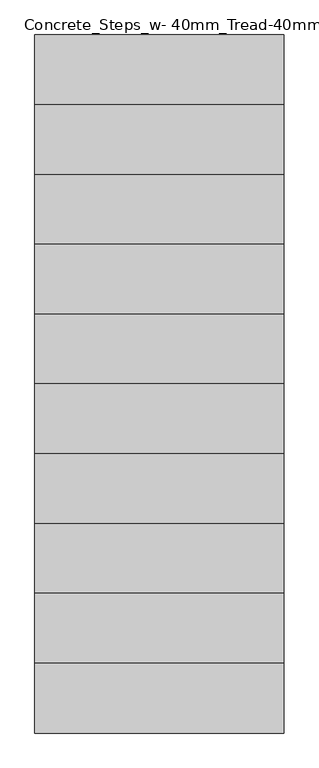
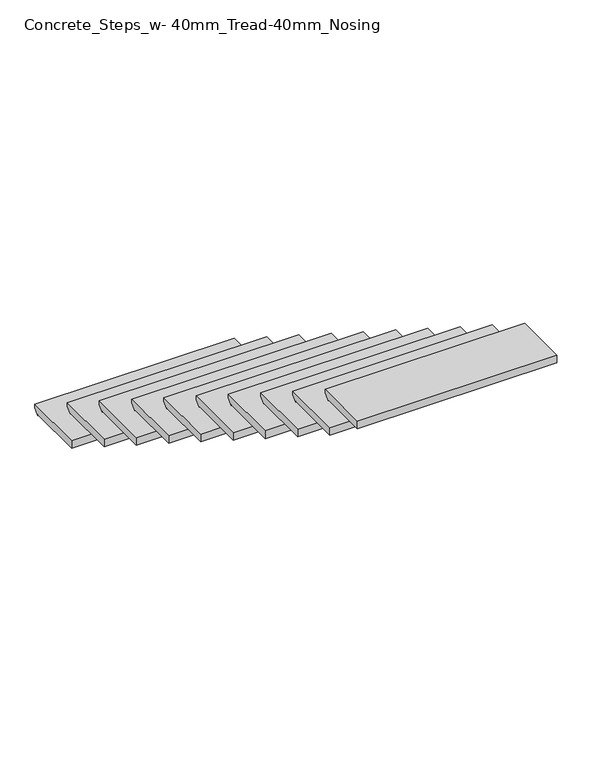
"""IFC4 building model written with IfcOpenShell, lengths in millimetres: stair flight geometry, Concrete_Steps_w- 40mm_Tread-40mm_Nosing."""

from ifc_helpers import new_model, si_unit, frame, origin, place, context, project, spatial, polyline, outline, extrude, source, transform, mapped, element, save


def concrete_steps_w_40mm_tread_40mm_nosing_491d132e(model_context):
    return source(origin(), model_context, "Body", "SweptSolid", [
        extrude(outline(polyline([(994.9946591, 2142.8571429), (1314.9946591, 2142.8571429), (1314.9946591, 2123.8071429), (1289.5946591, 2098.4071429), (1289.5946591, 2102.8571429), (994.9946591, 2102.8571429), (994.9946591, 2142.8571429)])), frame((-5849.2057633, 0.0, 0.0), z_axis=(1.0, 0.0, 0.0), x_axis=(0.0, 1.0, 0.0)), (0.0, 0.0, 1.0), 1000.0),
        extrude(outline(polyline([(714.9946591, 2321.4285714), (1034.9946591, 2321.4285714), (1034.9946591, 2302.3785714), (1009.5946591, 2276.9785714), (1009.5946591, 2281.4285714), (714.9946591, 2281.4285714), (714.9946591, 2321.4285714)])), frame((-5849.2057633, 0.0, 0.0), z_axis=(1.0, 0.0, 0.0), x_axis=(0.0, 1.0, 0.0)), (0.0, 0.0, 1.0), 1000.0),
        extrude(outline(polyline([(434.9946591, 2500.0), (754.9946591, 2500.0), (754.9946591, 2480.95), (729.5946591, 2455.55), (729.5946591, 2460.0), (434.9946591, 2460.0), (434.9946591, 2500.0)])), frame((-5849.2057633, 0.0, 0.0), z_axis=(1.0, 0.0, 0.0), x_axis=(0.0, 1.0, 0.0)), (0.0, 0.0, 1.0), 1000.0),
        extrude(outline(polyline([(154.9946591, 2678.5714286), (474.9946591, 2678.5714286), (474.9946591, 2659.5214286), (449.5946591, 2634.1214286), (449.5946591, 2638.5714286), (154.9946591, 2638.5714286), (154.9946591, 2678.5714286)])), frame((-5849.2057633, 0.0, 0.0), z_axis=(1.0, 0.0, 0.0), x_axis=(0.0, 1.0, 0.0)), (0.0, 0.0, 1.0), 1000.0),
        extrude(outline(polyline([(-125.0053409, 2857.1428571), (194.9946591, 2857.1428571), (194.9946591, 2838.0928571), (169.5946591, 2812.6928571), (169.5946591, 2817.1428571), (-125.0053409, 2817.1428571), (-125.0053409, 2857.1428571)])), frame((-5849.2057633, 0.0, 0.0), z_axis=(1.0, 0.0, 0.0), x_axis=(0.0, 1.0, 0.0)), (0.0, 0.0, 1.0), 1000.0),
        extrude(outline(polyline([(-405.0053409, 3035.7142857), (-85.0053409, 3035.7142857), (-85.0053409, 3016.6642857), (-110.4053409, 2991.2642857), (-110.4053409, 2995.7142857), (-405.0053409, 2995.7142857), (-405.0053409, 3035.7142857)])), frame((-5849.2057633, 0.0, 0.0), z_axis=(1.0, 0.0, 0.0), x_axis=(0.0, 1.0, 0.0)), (0.0, 0.0, 1.0), 1000.0),
        extrude(outline(polyline([(-685.0053409, 3214.2857143), (-365.0053409, 3214.2857143), (-365.0053409, 3195.2357143), (-390.4053409, 3169.8357143), (-390.4053409, 3174.2857143), (-685.0053409, 3174.2857143), (-685.0053409, 3214.2857143)])), frame((-5849.2057633, 0.0, 0.0), z_axis=(1.0, 0.0, 0.0), x_axis=(0.0, 1.0, 0.0)), (0.0, 0.0, 1.0), 1000.0),
        extrude(outline(polyline([(-965.0053409, 3392.8571429), (-645.0053409, 3392.8571429), (-645.0053409, 3373.8071429), (-670.4053409, 3348.4071429), (-670.4053409, 3352.8571429), (-965.0053409, 3352.8571429), (-965.0053409, 3392.8571429)])), frame((-5849.2057633, 0.0, 0.0), z_axis=(1.0, 0.0, 0.0), x_axis=(0.0, 1.0, 0.0)), (0.0, 0.0, 1.0), 1000.0),
        extrude(outline(polyline([(-1245.0053409, 3571.4285714), (-925.0053409, 3571.4285714), (-925.0053409, 3552.3785714), (-950.4053409, 3526.9785714), (-950.4053409, 3531.4285714), (-1245.0053409, 3531.4285714), (-1245.0053409, 3571.4285714)])), frame((-5849.2057633, 0.0, 0.0), z_axis=(1.0, 0.0, 0.0), x_axis=(0.0, 1.0, 0.0)), (0.0, 0.0, 1.0), 1000.0),
        extrude(outline(polyline([(-1485.0053409, 3750.0), (-1205.0053409, 3750.0), (-1205.0053409, 3730.95), (-1230.4053409, 3705.55), (-1230.4053409, 3710.0), (-1485.0053409, 3710.0), (-1485.0053409, 3750.0)])), frame((-5849.2057633, 0.0, 0.0), z_axis=(1.0, 0.0, 0.0), x_axis=(0.0, 1.0, 0.0)), (0.0, 0.0, 1.0), 1000.0),
    ])


if __name__ == "__main__":
    model = new_model("IFC4")
    model_context = context("Model", 3, world=origin())
    ifc_project = project(units=[si_unit("LENGTHUNIT", "METRE", prefix="MILLI")], contexts=[model_context])
    site = spatial("IfcSite", under=ifc_project)
    building = spatial("IfcBuilding", under=site)
    placement = place(None, origin())
    concrete_steps_w_40mm_tread_40mm_nosing_shape = concrete_steps_w_40mm_tread_40mm_nosing_491d132e(model_context)
    element("IfcStairFlight", 1, ObjectType="Concrete_Steps_w- 40mm_Tread-40mm_Nosing", at=placement, inside=building, context=model_context, shape_type="MappedRepresentation", body=[
        mapped(concrete_steps_w_40mm_tread_40mm_nosing_shape, transform((0.0, 0.0, 0.0), x_axis=(1.0, 0.0, 0.0), y_axis=(0.0, 1.0, 0.0), z_axis=(0.0, 0.0, 1.0))),
    ])
    save(model, "model.ifc")
